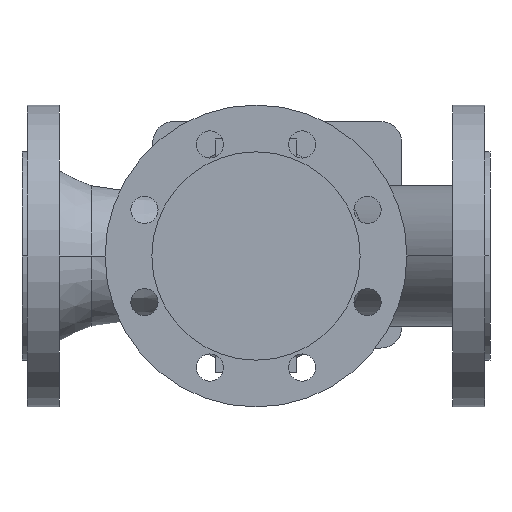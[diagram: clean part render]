
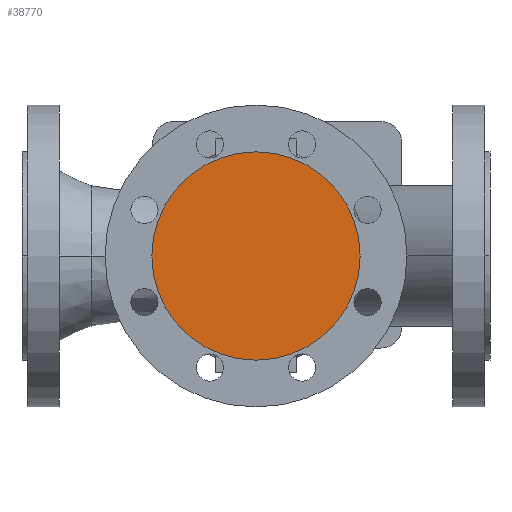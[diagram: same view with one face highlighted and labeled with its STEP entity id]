
A CAD part, front view. The second image highlights one B-rep face of the part: STEP entity #38770.
In plain terms, the highlighted planar face has unit normal (0, -1, 0).
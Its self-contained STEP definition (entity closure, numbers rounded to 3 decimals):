
#5060=CARTESIAN_POINT('',(86.,-130.,0.));
#5070=VERTEX_POINT('',#5060);
#5230=CARTESIAN_POINT('',(224.,-130.,0.));
#5240=VERTEX_POINT('',#5230);
#5270=CARTESIAN_POINT('',(155.,-130.,0.));
#5280=DIRECTION('',(0.,1.,0.));
#5290=DIRECTION('',(1.,0.,0.));
#5300=AXIS2_PLACEMENT_3D('',#5270,#5280,#5290);
#5310=CIRCLE('',#5300,69.);
#5320=EDGE_CURVE('',#5070,#5240,#5310,.T.);
#38670=CARTESIAN_POINT('',(189.5,-130.,0.));
#38680=DIRECTION('',(0.,-1.,0.));
#38690=DIRECTION('',(-1.,0.,0.));
#38700=AXIS2_PLACEMENT_3D('',#38670,#38680,#38690);
#38710=PLANE('',#38700);
#38720=EDGE_CURVE('',#5240,#5070,#5310,.T.);
#38730=ORIENTED_EDGE('',*,*,#38720,.F.);
#38740=ORIENTED_EDGE('',*,*,#5320,.F.);
#38750=EDGE_LOOP('',(#38740,#38730));
#38760=FACE_OUTER_BOUND('',#38750,.T.);
#38770=ADVANCED_FACE('',(#38760),#38710,.T.);
